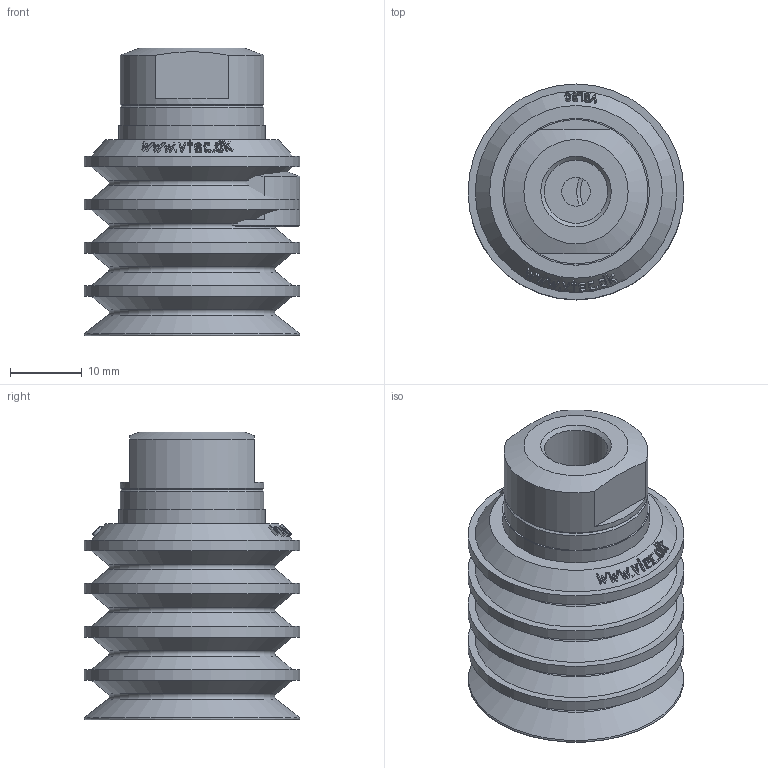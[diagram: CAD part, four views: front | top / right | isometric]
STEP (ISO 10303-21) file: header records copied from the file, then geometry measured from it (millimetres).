
FILE_DESCRIPTION( ( 'STEP AP203' ), '1' );
FILE_NAME( 'C:/撲啗紫賊-02/3D-蘋驍煎斜/Vacuum Pad/VBL series/VBL30-18F.stp', '2006-04-24T11:48:36', ( ' ' ), ( ' ' ), 'XStep 1.0', ' ', ' ' );
FILE_SCHEMA( ( 'CONFIG_CONTROL_DESIGN) ( )' ) );
Length unit declared in the file: metre
Products named in the file (3): Assem1; 1; 2
Bounding box: 30 x 30 x 40 mm (x, y, z)
Volume: 13561.2 mm3; surface area: 19981 mm2
Topology: 4 solids, 4 shells, 454 faces, 1050 edges, 684 vertices
Faces by surface type: bspline 258, cone 94, plane 58, cylinder 34, torus 10
Full cylindrical faces by diameter (mm): 4 x2, 6.5 x2, 7 x2, 7.6 x4, 8 x2, 8.8 x2, 9 x2, 11 x2, 11.5 x2, 20 x4, 20.4 x2, 30 x8
Entity records: 10121 total; most frequent: CARTESIAN_POINT 5906, ORIENTED_EDGE 946, EDGE_CURVE 473, DIRECTION 462, VERTEX_POINT 340, EDGE_LOOP 321, B_SPLINE_CURVE_WITH_KNOTS 287, FACE_OUTER_BOUND 251
